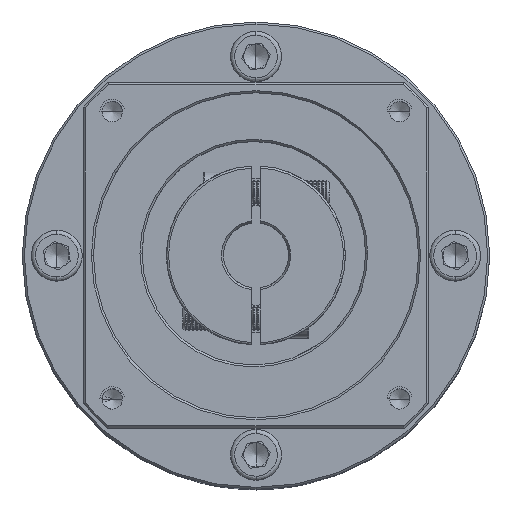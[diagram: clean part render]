
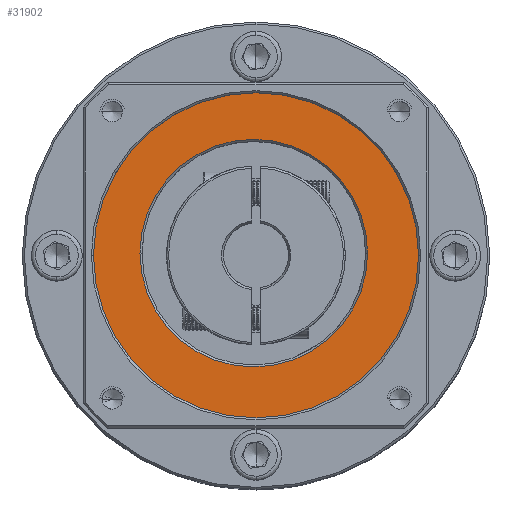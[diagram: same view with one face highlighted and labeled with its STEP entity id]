
A CAD part, top view. The second image highlights one B-rep face of the part: STEP entity #31902.
In plain terms, the highlighted planar face has unit normal (0, 0, 1).
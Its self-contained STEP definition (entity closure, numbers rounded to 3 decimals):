
#8859 = CARTESIAN_POINT ( 'NONE',  ( 61.584, -28.711, 17.397 ) ) ;
#11332 = AXIS2_PLACEMENT_3D ( 'NONE', #40244, #32118, #118945 ) ;
#14238 = EDGE_CURVE ( 'NONE', #23329, #35907, #77969, .T. ) ;
#21583 = DIRECTION ( 'NONE',  ( 0., 0., 1. ) ) ;
#22715 = EDGE_CURVE ( 'NONE', #85452, #107260, #39077, .T. ) ;
#22717 = DIRECTION ( 'NONE',  ( 1., 0., 0. ) ) ;
#23329 = VERTEX_POINT ( 'NONE', #54913 ) ;
#28047 = AXIS2_PLACEMENT_3D ( 'NONE', #90148, #21583, #42372 ) ;
#30387 = FACE_OUTER_BOUND ( 'NONE', #65609, .T. ) ;
#31902 = ADVANCED_FACE ( 'NONE', ( #30387, #50184 ), #39845, .T. ) ;
#32118 = DIRECTION ( 'NONE',  ( 0., 0., -1. ) ) ;
#33743 = CARTESIAN_POINT ( 'NONE',  ( 117.584, -28.711, 17.397 ) ) ;
#35907 = VERTEX_POINT ( 'NONE', #116028 ) ;
#39075 = EDGE_CURVE ( 'NONE', #107260, #85452, #64668, .T. ) ;
#39077 = CIRCLE ( 'NONE', #11332, 28. ) ;
#39845 = PLANE ( 'NONE',  #28047 ) ;
#40244 = CARTESIAN_POINT ( 'NONE',  ( 89.584, -28.711, 17.397 ) ) ;
#42372 = DIRECTION ( 'NONE',  ( 1., 0., 0. ) ) ;
#50184 = FACE_BOUND ( 'NONE', #78086, .T. ) ;
#54380 = AXIS2_PLACEMENT_3D ( 'NONE', #77989, #106851, #105164 ) ;
#54913 = CARTESIAN_POINT ( 'NONE',  ( 50.126, -29.245, 17.397 ) ) ;
#55270 = ORIENTED_EDGE ( 'NONE', *, *, #14238, .T. ) ;
#56875 = ORIENTED_EDGE ( 'NONE', *, *, #39075, .T. ) ;
#58139 = AXIS2_PLACEMENT_3D ( 'NONE', #81955, #101025, #22717 ) ;
#62742 = EDGE_CURVE ( 'NONE', #35907, #23329, #97541, .T. ) ;
#63893 = AXIS2_PLACEMENT_3D ( 'NONE', #122634, #84045, #104379 ) ;
#64668 = CIRCLE ( 'NONE', #63893, 28. ) ;
#65609 = EDGE_LOOP ( 'NONE', ( #105569, #55270 ) ) ;
#75181 = ORIENTED_EDGE ( 'NONE', *, *, #22715, .T. ) ;
#77969 = CIRCLE ( 'NONE', #58139, 40. ) ;
#77989 = CARTESIAN_POINT ( 'NONE',  ( 90.126, -29.245, 17.397 ) ) ;
#78086 = EDGE_LOOP ( 'NONE', ( #75181, #56875 ) ) ;
#81955 = CARTESIAN_POINT ( 'NONE',  ( 90.126, -29.245, 17.397 ) ) ;
#84045 = DIRECTION ( 'NONE',  ( 0., 0., -1. ) ) ;
#85452 = VERTEX_POINT ( 'NONE', #33743 ) ;
#90148 = CARTESIAN_POINT ( 'NONE',  ( 90.126, -29.245, 17.397 ) ) ;
#97541 = CIRCLE ( 'NONE', #54380, 40. ) ;
#101025 = DIRECTION ( 'NONE',  ( 0., 0., 1. ) ) ;
#104379 = DIRECTION ( 'NONE',  ( 1., 0., 0. ) ) ;
#105164 = DIRECTION ( 'NONE',  ( 1., 0., 0. ) ) ;
#105569 = ORIENTED_EDGE ( 'NONE', *, *, #62742, .T. ) ;
#106851 = DIRECTION ( 'NONE',  ( 0., 0., 1. ) ) ;
#107260 = VERTEX_POINT ( 'NONE', #8859 ) ;
#116028 = CARTESIAN_POINT ( 'NONE',  ( 130.126, -29.245, 17.397 ) ) ;
#118945 = DIRECTION ( 'NONE',  ( 1., 0., 0. ) ) ;
#122634 = CARTESIAN_POINT ( 'NONE',  ( 89.584, -28.711, 17.397 ) ) ;
